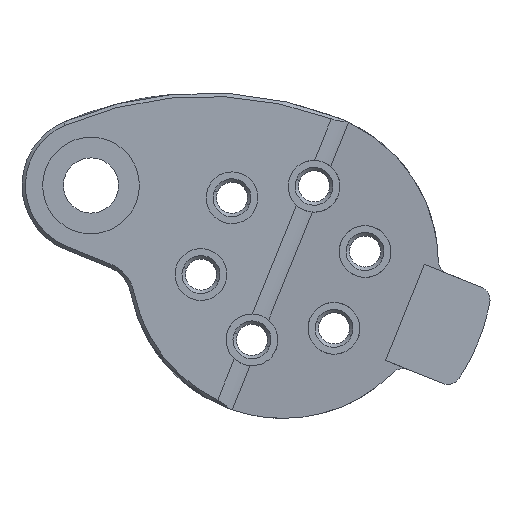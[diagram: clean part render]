
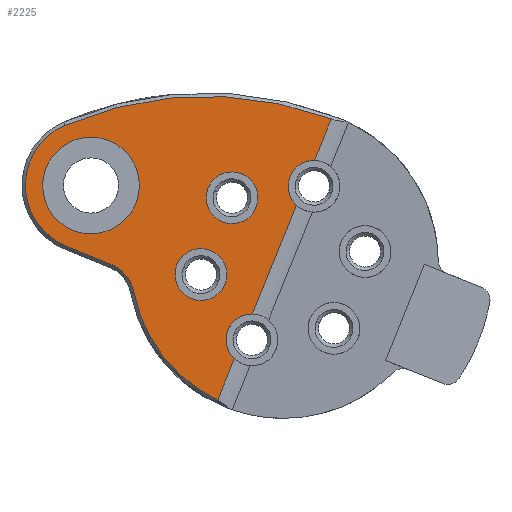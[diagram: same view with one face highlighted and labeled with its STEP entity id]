
A CAD part, left-side view. The second image highlights one B-rep face of the part: STEP entity #2225.
In plain terms, the highlighted planar face has unit normal (-1, 0, 0).
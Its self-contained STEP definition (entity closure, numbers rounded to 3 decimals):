
#29=CARTESIAN_POINT('',(95.,1.495,-564.126));
#30=DIRECTION('',(-1.,0.,0.));
#31=DIRECTION('',(0.,-0.019,1.));
#32=AXIS2_PLACEMENT_3D('',#29,#30,#31);
#34=CARTESIAN_POINT('',(95.,-3.,-553.));
#35=DIRECTION('',(1.,0.,0.));
#36=DIRECTION('',(0.,0.43,-0.903));
#37=AXIS2_PLACEMENT_3D('',#34,#35,#36);
#39=CARTESIAN_POINT('',(95.,23.99,-558.274));
#40=DIRECTION('',(-1.,0.,0.));
#41=DIRECTION('',(0.,-0.981,0.192));
#42=AXIS2_PLACEMENT_3D('',#39,#40,#41);
#44=DIRECTION('',(0.,0.927,0.375));
#45=VECTOR('',#44,6.951);
#46=CARTESIAN_POINT('',(95.,21.929,-553.174));
#47=LINE('',#46,#45);
#48=CARTESIAN_POINT('',(95.,24.816,-541.762));
#49=DIRECTION('',(1.,0.,0.));
#50=DIRECTION('',(0.,0.375,-0.927));
#51=AXIS2_PLACEMENT_3D('',#48,#49,#50);
#53=CARTESIAN_POINT('',(95.,24.816,-541.762));
#54=DIRECTION('',(1.,0.,0.));
#55=DIRECTION('',(0.,0.927,0.375));
#56=AXIS2_PLACEMENT_3D('',#53,#54,#55);
#58=CARTESIAN_POINT('',(95.,8.145,-580.584));
#59=DIRECTION('',(1.,0.,0.));
#60=DIRECTION('',(0.,0.395,0.919));
#61=AXIS2_PLACEMENT_3D('',#58,#59,#60);
#63=CARTESIAN_POINT('',(95.,-7.495,-541.874));
#64=DIRECTION('',(-1.,0.,0.));
#65=DIRECTION('',(0.,-0.019,1.));
#66=AXIS2_PLACEMENT_3D('',#63,#64,#65);
#68=CARTESIAN_POINT('',(95.,24.816,-541.762));
#69=DIRECTION('',(-1.,0.,0.));
#70=DIRECTION('',(0.,0.927,0.375));
#71=AXIS2_PLACEMENT_3D('',#68,#69,#70);
#73=CARTESIAN_POINT('',(95.,24.816,-541.762));
#74=DIRECTION('',(-1.,0.,0.));
#75=DIRECTION('',(0.,-0.927,-0.375));
#76=AXIS2_PLACEMENT_3D('',#73,#74,#75);
#78=CARTESIAN_POINT('',(95.,4.388,-543.544));
#79=DIRECTION('',(-1.,0.,0.));
#80=DIRECTION('',(0.,-0.375,0.927));
#81=AXIS2_PLACEMENT_3D('',#78,#79,#80);
#83=CARTESIAN_POINT('',(95.,4.388,-543.544));
#84=DIRECTION('',(-1.,0.,0.));
#85=DIRECTION('',(0.,0.375,-0.927));
#86=AXIS2_PLACEMENT_3D('',#83,#84,#85);
#88=CARTESIAN_POINT('',(95.,8.883,-554.67));
#89=DIRECTION('',(-1.,0.,0.));
#90=DIRECTION('',(0.,-0.375,0.927));
#91=AXIS2_PLACEMENT_3D('',#88,#89,#90);
#93=CARTESIAN_POINT('',(95.,8.883,-554.67));
#94=DIRECTION('',(-1.,0.,0.));
#95=DIRECTION('',(0.,0.375,-0.927));
#96=AXIS2_PLACEMENT_3D('',#93,#94,#95);
#120=DIRECTION('',(0.,-0.375,0.927));
#121=VECTOR('',#120,16.995);
#122=CARTESIAN_POINT('',(95.,1.425,-560.377));
#123=LINE('',#122,#121);
#254=DIRECTION('',(0.,-0.375,0.927));
#255=VECTOR('',#254,6.457);
#256=CARTESIAN_POINT('',(95.,6.468,-572.858));
#257=LINE('',#256,#255);
#659=DIRECTION('',(0.,-0.375,0.927));
#660=VECTOR('',#659,6.48);
#661=CARTESIAN_POINT('',(95.,-7.565,-538.124));
#662=LINE('',#661,#660);
#1725=CARTESIAN_POINT('',(95.,18.325,-544.384));
#1726=VERTEX_POINT('',#1725);
#1727=CARTESIAN_POINT('',(95.,31.306,-539.14));
#1728=VERTEX_POINT('',#1727);
#1733=CARTESIAN_POINT('',(95.,1.425,-560.377));
#1734=CARTESIAN_POINT('',(95.,4.05,-566.872));
#1735=VERTEX_POINT('',#1733);
#1736=VERTEX_POINT('',#1734);
#1737=CARTESIAN_POINT('',(95.,6.468,-572.858));
#1738=VERTEX_POINT('',#1737);
#1739=CARTESIAN_POINT('',(95.,18.592,-557.219));
#1740=VERTEX_POINT('',#1739);
#1741=CARTESIAN_POINT('',(95.,21.929,-553.174));
#1742=VERTEX_POINT('',#1741);
#1743=CARTESIAN_POINT('',(95.,28.374,-550.57));
#1744=VERTEX_POINT('',#1743);
#1745=CARTESIAN_POINT('',(95.,33.624,-538.203));
#1746=VERTEX_POINT('',#1745);
#1747=CARTESIAN_POINT('',(95.,28.564,-533.033));
#1748=VERTEX_POINT('',#1747);
#1749=CARTESIAN_POINT('',(95.,-9.993,-532.116));
#1750=VERTEX_POINT('',#1749);
#1751=CARTESIAN_POINT('',(95.,-7.565,-538.124));
#1752=VERTEX_POINT('',#1751);
#1753=CARTESIAN_POINT('',(95.,-4.941,-544.619));
#1754=VERTEX_POINT('',#1753);
#1755=CARTESIAN_POINT('',(95.,2.983,-540.067));
#1756=CARTESIAN_POINT('',(95.,5.793,-547.021));
#1757=VERTEX_POINT('',#1755);
#1758=VERTEX_POINT('',#1756);
#1759=CARTESIAN_POINT('',(95.,7.478,-551.193));
#1760=CARTESIAN_POINT('',(95.,10.288,-558.147));
#1761=VERTEX_POINT('',#1759);
#1762=VERTEX_POINT('',#1760);
#2180=CARTESIAN_POINT('',(95.,-3.,-553.));
#2181=DIRECTION('',(-1.,0.,0.));
#2182=DIRECTION('',(0.,-0.375,0.927));
#2183=AXIS2_PLACEMENT_3D('',#2180,#2181,#2182);
#2184=PLANE('',#2183);
#2186=ORIENTED_EDGE('',*,*,#2185,.T.);
#2188=ORIENTED_EDGE('',*,*,#2187,.F.);
#2190=ORIENTED_EDGE('',*,*,#2189,.T.);
#2192=ORIENTED_EDGE('',*,*,#2191,.T.);
#2194=ORIENTED_EDGE('',*,*,#2193,.T.);
#2196=ORIENTED_EDGE('',*,*,#2195,.T.);
#2198=ORIENTED_EDGE('',*,*,#2197,.T.);
#2200=ORIENTED_EDGE('',*,*,#2199,.T.);
#2202=ORIENTED_EDGE('',*,*,#2201,.F.);
#2204=ORIENTED_EDGE('',*,*,#2203,.T.);
#2206=ORIENTED_EDGE('',*,*,#2205,.F.);
#2207=EDGE_LOOP('',(#2186,#2188,#2190,#2192,#2194,#2196,#2198,#2200,#2202,#2204,
#2206));
#2208=FACE_OUTER_BOUND('',#2207,.F.);
#2209=ORIENTED_EDGE('',*,*,#2143,.T.);
#2210=ORIENTED_EDGE('',*,*,#2174,.T.);
#2211=EDGE_LOOP('',(#2209,#2210));
#2212=FACE_BOUND('',#2211,.F.);
#2214=ORIENTED_EDGE('',*,*,#2213,.T.);
#2216=ORIENTED_EDGE('',*,*,#2215,.T.);
#2217=EDGE_LOOP('',(#2214,#2216));
#2218=FACE_BOUND('',#2217,.F.);
#2220=ORIENTED_EDGE('',*,*,#2219,.T.);
#2222=ORIENTED_EDGE('',*,*,#2221,.T.);
#2223=EDGE_LOOP('',(#2220,#2222));
#2224=FACE_BOUND('',#2223,.F.);
#2225=ADVANCED_FACE('',(#2208,#2212,#2218,#2224),#2184,.T.);
#33=CIRCLE('',#32,3.75);
#38=CIRCLE('',#37,22.);
#43=CIRCLE('',#42,5.5);
#52=CIRCLE('',#51,9.5);
#57=CIRCLE('',#56,9.5);
#62=CIRCLE('',#61,51.75);
#67=CIRCLE('',#66,3.75);
#72=CIRCLE('',#71,7.);
#77=CIRCLE('',#76,7.);
#82=CIRCLE('',#81,3.75);
#87=CIRCLE('',#86,3.75);
#92=CIRCLE('',#91,3.75);
#97=CIRCLE('',#96,3.75);
#2143=EDGE_CURVE('',#1728,#1726,#72,.T.);
#2174=EDGE_CURVE('',#1726,#1728,#77,.T.);
#2185=EDGE_CURVE('',#1735,#1736,#33,.T.);
#2187=EDGE_CURVE('',#1738,#1736,#257,.T.);
#2189=EDGE_CURVE('',#1738,#1740,#38,.T.);
#2191=EDGE_CURVE('',#1740,#1742,#43,.T.);
#2193=EDGE_CURVE('',#1742,#1744,#47,.T.);
#2195=EDGE_CURVE('',#1744,#1746,#52,.T.);
#2197=EDGE_CURVE('',#1746,#1748,#57,.T.);
#2199=EDGE_CURVE('',#1748,#1750,#62,.T.);
#2201=EDGE_CURVE('',#1752,#1750,#662,.T.);
#2203=EDGE_CURVE('',#1752,#1754,#67,.T.);
#2205=EDGE_CURVE('',#1735,#1754,#123,.T.);
#2213=EDGE_CURVE('',#1757,#1758,#82,.T.);
#2215=EDGE_CURVE('',#1758,#1757,#87,.T.);
#2219=EDGE_CURVE('',#1761,#1762,#92,.T.);
#2221=EDGE_CURVE('',#1762,#1761,#97,.T.);
